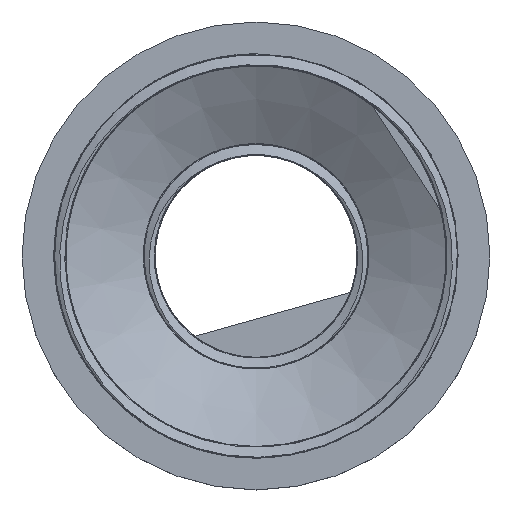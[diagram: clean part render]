
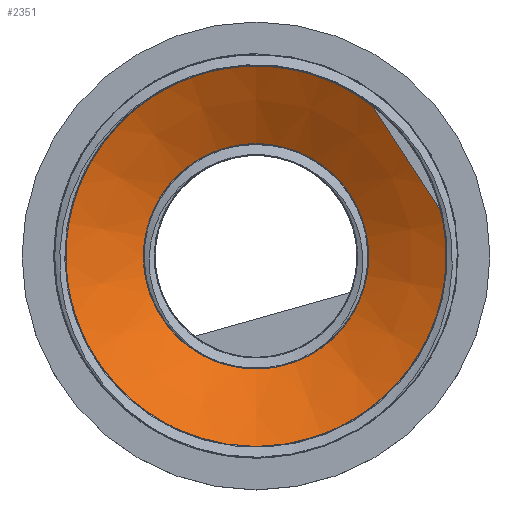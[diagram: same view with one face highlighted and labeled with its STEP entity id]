
A CAD part, top view. The second image highlights one B-rep face of the part: STEP entity #2351.
In plain terms, the highlighted conical face has half-angle 60 degrees and reference radius 23.2 mm.
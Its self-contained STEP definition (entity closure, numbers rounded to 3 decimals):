
#19=CONICAL_SURFACE('',#2586,23.2,1.047);
#286=LINE('',#4407,#422);
#422=VECTOR('',#3083,23.2);
#597=FACE_OUTER_BOUND('',#743,.T.);
#743=EDGE_LOOP('',(#1974,#1975,#1976,#1977,#1978,#1979));
#885=CIRCLE('',#2584,29.8);
#886=CIRCLE('',#2585,29.8);
#887=CIRCLE('',#2587,16.6);
#888=CIRCLE('',#2588,16.6);
#1065=VERTEX_POINT('',#4400);
#1066=VERTEX_POINT('',#4402);
#1067=VERTEX_POINT('',#4406);
#1068=VERTEX_POINT('',#4408);
#1381=EDGE_CURVE('',#1066,#1065,#885,.T.);
#1382=EDGE_CURVE('',#1065,#1066,#886,.T.);
#1383=EDGE_CURVE('',#1065,#1067,#286,.T.);
#1384=EDGE_CURVE('',#1068,#1067,#887,.T.);
#1385=EDGE_CURVE('',#1067,#1068,#888,.T.);
#1974=ORIENTED_EDGE('',*,*,#1381,.T.);
#1975=ORIENTED_EDGE('',*,*,#1383,.T.);
#1976=ORIENTED_EDGE('',*,*,#1384,.F.);
#1977=ORIENTED_EDGE('',*,*,#1385,.F.);
#1978=ORIENTED_EDGE('',*,*,#1383,.F.);
#1979=ORIENTED_EDGE('',*,*,#1382,.T.);
#2351=ADVANCED_FACE('',(#597),#19,.F.);
#2584=AXIS2_PLACEMENT_3D('',#4403,#3077,#3078);
#2585=AXIS2_PLACEMENT_3D('',#4404,#3079,#3080);
#2586=AXIS2_PLACEMENT_3D('',#4405,#3081,#3082);
#2587=AXIS2_PLACEMENT_3D('',#4409,#3084,#3085);
#2588=AXIS2_PLACEMENT_3D('',#4410,#3086,#3087);
#3077=DIRECTION('center_axis',(0.,0.,1.));
#3078=DIRECTION('ref_axis',(1.,0.,0.));
#3079=DIRECTION('center_axis',(0.,0.,1.));
#3080=DIRECTION('ref_axis',(1.,0.,0.));
#3081=DIRECTION('center_axis',(0.,0.,1.));
#3082=DIRECTION('ref_axis',(0.,-1.,0.));
#3083=DIRECTION('',(0.,-0.866,-0.5));
#3084=DIRECTION('center_axis',(0.,0.,1.));
#3085=DIRECTION('ref_axis',(1.,0.,0.));
#3086=DIRECTION('center_axis',(0.,0.,1.));
#3087=DIRECTION('ref_axis',(1.,0.,0.));
#4400=CARTESIAN_POINT('',(0.,29.8,20.528));
#4402=CARTESIAN_POINT('',(0.,-29.8,20.528));
#4403=CARTESIAN_POINT('Origin',(0.,0.,20.528));
#4404=CARTESIAN_POINT('Origin',(0.,0.,20.528));
#4405=CARTESIAN_POINT('Origin',(0.,0.,16.718));
#4406=CARTESIAN_POINT('',(0.,16.6,12.907));
#4407=CARTESIAN_POINT('',(0.,23.2,16.718));
#4408=CARTESIAN_POINT('',(0.,-16.6,12.907));
#4409=CARTESIAN_POINT('Origin',(0.,0.,12.907));
#4410=CARTESIAN_POINT('Origin',(0.,0.,12.907));
